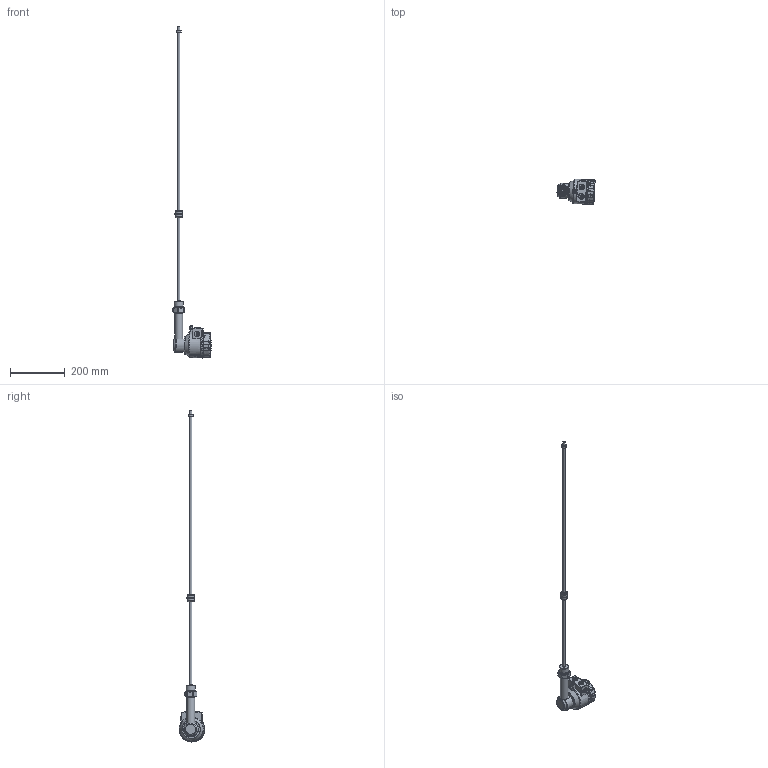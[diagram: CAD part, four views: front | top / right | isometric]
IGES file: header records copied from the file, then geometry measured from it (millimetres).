
Global section: file name: M_Mű_Bszer_1,5col,; native system: Autodesk Inventor 2015; preprocessor: unknown; author: aantal; date: 20150306.111546; units: millimetre
Bounding box: 139.02 x 93.62 x 1210.79 mm (x, y, z)
Volume: 944329.4 mm3; surface area: 134513.3 mm2
Topology: 15 solids, 15 shells, 1334 faces, 3327 edges, 2071 vertices
Faces by surface type: bspline 1334
